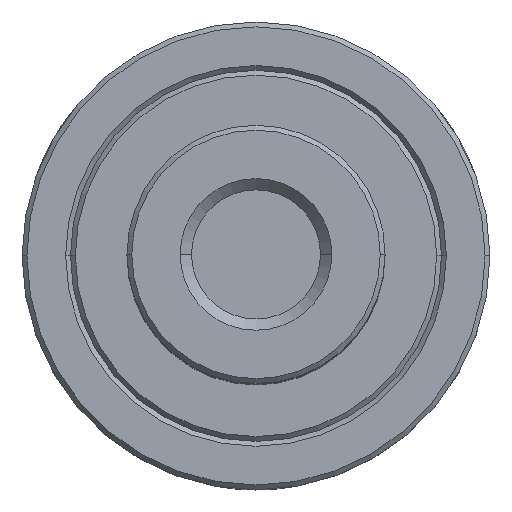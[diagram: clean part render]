
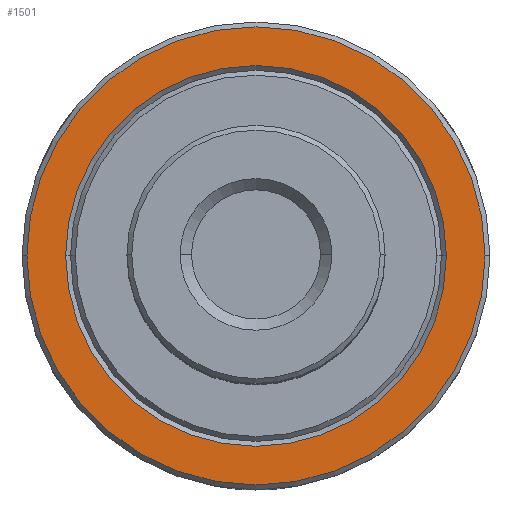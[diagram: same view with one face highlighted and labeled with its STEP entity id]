
A CAD part, top view. The second image highlights one B-rep face of the part: STEP entity #1501.
In plain terms, the highlighted planar face has unit normal (0, 0, 1).
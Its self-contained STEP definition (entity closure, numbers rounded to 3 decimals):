
#257 = VERTEX_POINT ( 'NONE', #2324 ) ;
#262 = EDGE_CURVE ( 'NONE', #287, #257, #2322, .T. ) ;
#287 = VERTEX_POINT ( 'NONE', #2385 ) ;
#291 = VERTEX_POINT ( 'NONE', #2388 ) ;
#361 = EDGE_CURVE ( 'NONE', #363, #291, #2522, .T. ) ;
#363 = VERTEX_POINT ( 'NONE', #2535 ) ;
#1449 = EDGE_CURVE ( 'NONE', #291, #363, #4642, .T. ) ;
#1460 = EDGE_CURVE ( 'NONE', #257, #287, #4645, .T. ) ;
#1494 = EDGE_LOOP ( 'NONE', ( #1506, #1499 ) ) ;
#1495 = ORIENTED_EDGE ( 'NONE', *, *, #1460, .T. ) ;
#1496 = EDGE_LOOP ( 'NONE', ( #1498, #1495 ) ) ;
#1498 = ORIENTED_EDGE ( 'NONE', *, *, #262, .T. ) ;
#1499 = ORIENTED_EDGE ( 'NONE', *, *, #361, .T. ) ;
#1501 = ADVANCED_FACE ( 'NONE', ( #4773, #4756 ), #4749, .F. ) ;
#1506 = ORIENTED_EDGE ( 'NONE', *, *, #1449, .T. ) ;
#2315 = AXIS2_PLACEMENT_3D ( 'NONE', #2334, #2333, #2332 ) ;
#2322 = CIRCLE ( 'NONE', #2315, 11.8 ) ;
#2324 = CARTESIAN_POINT ( 'NONE',  ( -11.8, 0., -28.003 ) ) ;
#2332 = DIRECTION ( 'NONE',  ( -1., 0., 0. ) ) ;
#2333 = DIRECTION ( 'NONE',  ( 0., 0., -1. ) ) ;
#2334 = CARTESIAN_POINT ( 'NONE',  ( 0., 0., -28.003 ) ) ;
#2385 = CARTESIAN_POINT ( 'NONE',  ( 11.8, 0., -28.003 ) ) ;
#2388 = CARTESIAN_POINT ( 'NONE',  ( -14.2, 0., -28.003 ) ) ;
#2515 = CARTESIAN_POINT ( 'NONE',  ( 0., 0., -28.003 ) ) ;
#2519 = DIRECTION ( 'NONE',  ( -1., 0., 0. ) ) ;
#2520 = DIRECTION ( 'NONE',  ( 0., 0., 1. ) ) ;
#2522 = CIRCLE ( 'NONE', #2533, 14.2 ) ;
#2533 = AXIS2_PLACEMENT_3D ( 'NONE', #2515, #2520, #2519 ) ;
#2535 = CARTESIAN_POINT ( 'NONE',  ( 14.2, 0., -28.003 ) ) ;
#4627 = DIRECTION ( 'NONE',  ( -1., 0., 0. ) ) ;
#4628 = DIRECTION ( 'NONE',  ( 0., 0., 1. ) ) ;
#4629 = AXIS2_PLACEMENT_3D ( 'NONE', #4634, #4628, #4627 ) ;
#4634 = CARTESIAN_POINT ( 'NONE',  ( 0., 0., -28.003 ) ) ;
#4642 = CIRCLE ( 'NONE', #4629, 14.2 ) ;
#4645 = CIRCLE ( 'NONE', #4740, 11.8 ) ;
#4723 = DIRECTION ( 'NONE',  ( -1., 0., 0. ) ) ;
#4732 = CARTESIAN_POINT ( 'NONE',  ( 0., 0., -28.003 ) ) ;
#4733 = DIRECTION ( 'NONE',  ( 0., 0., -1. ) ) ;
#4740 = AXIS2_PLACEMENT_3D ( 'NONE', #4732, #4733, #4723 ) ;
#4749 = PLANE ( 'NONE',  #4754 ) ;
#4754 = AXIS2_PLACEMENT_3D ( 'NONE', #4798, #4797, #4796 ) ;
#4756 = FACE_OUTER_BOUND ( 'NONE', #1494, .T. ) ;
#4773 = FACE_BOUND ( 'NONE', #1496, .T. ) ;
#4796 = DIRECTION ( 'NONE',  ( -1., 0., 0. ) ) ;
#4797 = DIRECTION ( 'NONE',  ( 0., 0., -1. ) ) ;
#4798 = CARTESIAN_POINT ( 'NONE',  ( 0., 11.5, -28.003 ) ) ;
